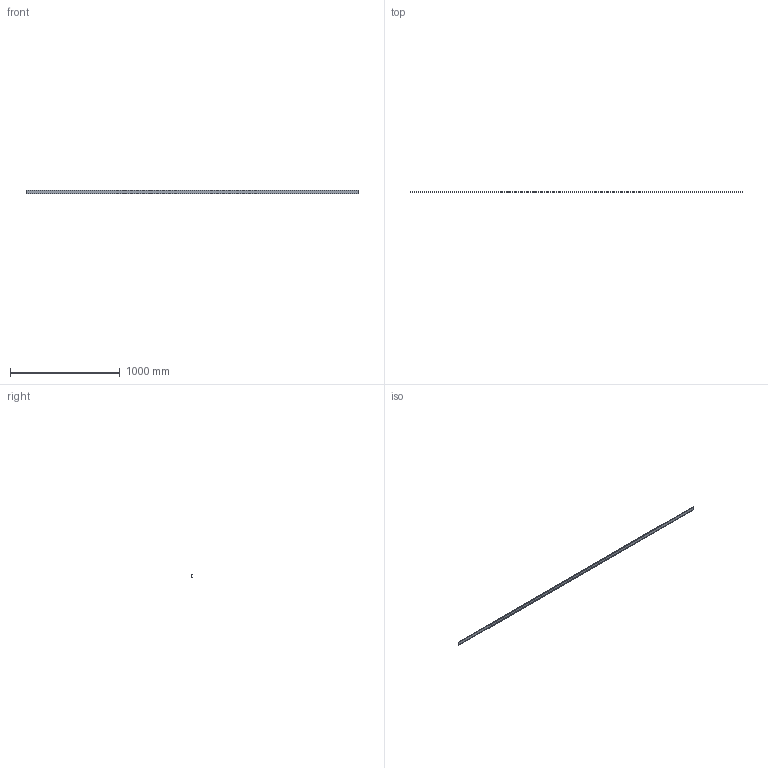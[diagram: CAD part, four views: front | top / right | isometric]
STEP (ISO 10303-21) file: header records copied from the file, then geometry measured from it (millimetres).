
FILE_DESCRIPTION (( 'STEP AP203' ), '1' );
FILE_NAME ('3535 Cover Flat.STEP', '2026-04-20T12:28:08', ( '' ), ( '' ), 'SwSTEP 2.0', 'SolidWorks 2025', '' );
FILE_SCHEMA (( 'CONFIG_CONTROL_DESIGN' ));
Length unit declared in the file: millimetre
Products named in the file (1): 3535 Cover Flat
Bounding box: 3020 x 7.27 x 32.6 mm (x, y, z)
Volume: 170387.8 mm3; surface area: 277565.7 mm2
Topology: 1 solids, 1 shells, 26 faces, 72 edges, 48 vertices
Faces by surface type: cylinder 14, plane 12
Entity records: 921 total; most frequent: DIRECTION 154, CARTESIAN_POINT 147, ORIENTED_EDGE 144, EDGE_CURVE 72, AXIS2_PLACEMENT_3D 55, VERTEX_POINT 48, VECTOR 44, LINE 44
